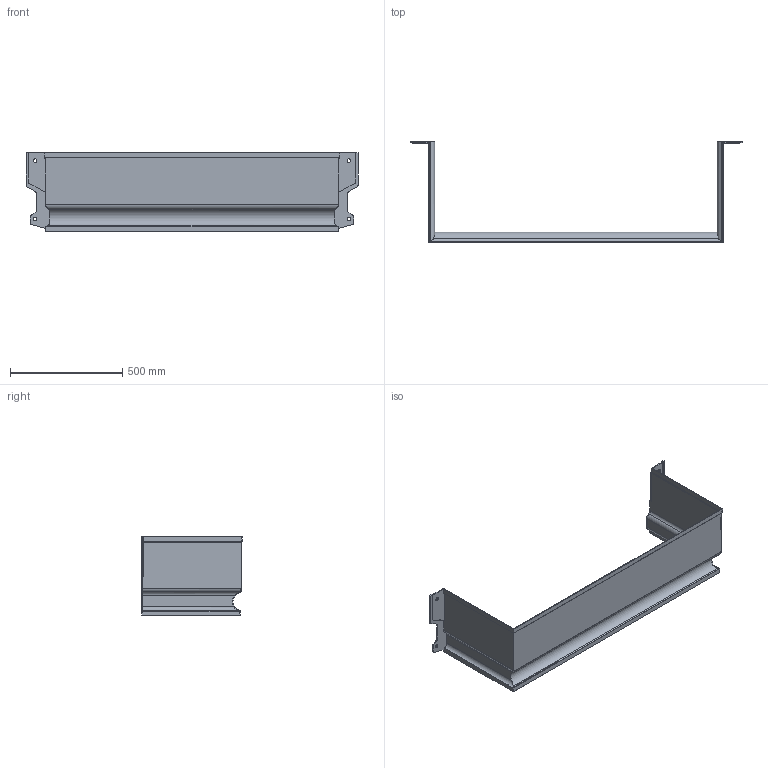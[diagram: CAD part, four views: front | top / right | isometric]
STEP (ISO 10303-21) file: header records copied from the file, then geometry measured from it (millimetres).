
FILE_DESCRIPTION(/* description */ (''),/* implementation_level */ '2;1');
FILE_NAME(/* name */ 'Q:\sge-bs-neu-2008\Marketing\CAD Zeichnungen\3D-CAD-Daten\3D Daten Website\- MEA Multinorm Aufsatz Kunststofflichtschacht_\Step\MEA_MULTINORM_Aufsatz_125x35x40.stp',/* time_stamp */ '2019-02-14T13:20:58+01:00',/* author */ ('avgrahammj'),/* organization */ (''),/* preprocessor_version */ 'ST-DEVELOPER v16.1',/* originating_system */ 'Autodesk Inventor 2016',/* authorisation */ '');
FILE_SCHEMA (('AUTOMOTIVE_DESIGN { 1 0 10303 214 3 1 1 }'));
Length unit declared in the file: centimetre
Products named in the file (1): MEA_MULTINORM_Aufsatz_125x35x40
Bounding box: 1482 x 450 x 350 mm (x, y, z)
Volume: 3463453.3 mm3; surface area: 1754596 mm2
Topology: 1 solids, 1 shells, 95 faces, 275 edges, 182 vertices
Faces by surface type: plane 63, cylinder 32
Full cylindrical faces by diameter (mm): 16 x4
Entity records: 3282 total; most frequent: CARTESIAN_POINT 751, ORIENTED_EDGE 538, DIRECTION 491, EDGE_CURVE 269, LINE 199, VECTOR 199, VERTEX_POINT 180, AXIS2_PLACEMENT_3D 146
